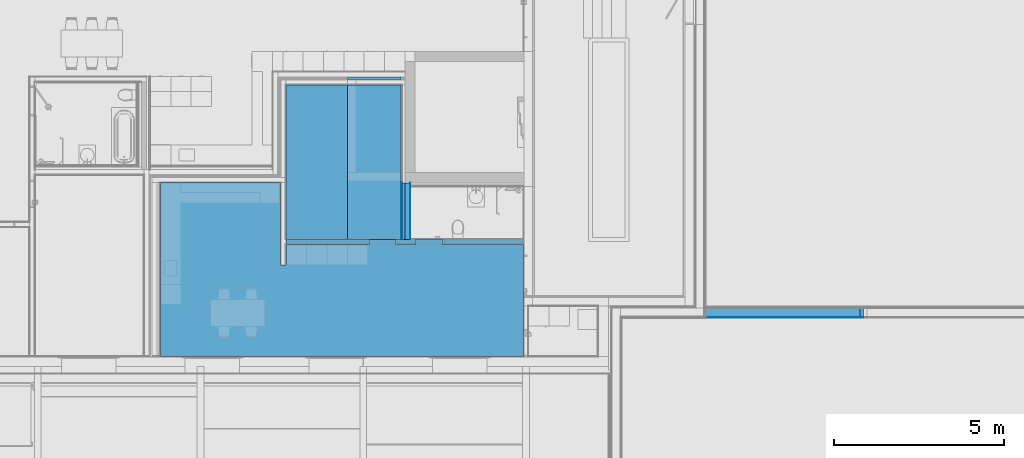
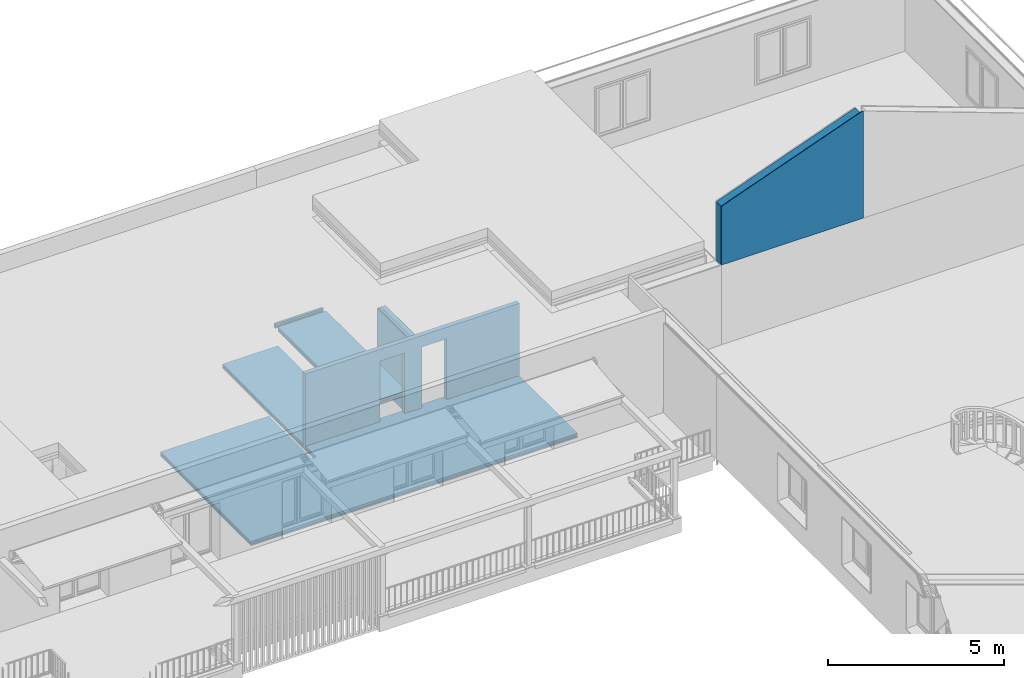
# One storey, part 12 of 36: 17 building element parts, 2 openings, 6 elements without a shape of their own.
"""IFC4 building model written with IfcOpenShell, lengths in millimetres."""

from ifc_helpers import new_model, entity, si_unit, converted_unit, derived_unit, direction, frame, origin_with_axes, place, context, subcontext, project, spatial, polygons, material, type_object, element, aggregate, save


model = new_model("IFC4")

# Units and contexts
model_context = context("Model", 3, precision=0.01, world=origin_with_axes(), true_north=direction((0.0, 1.0)))
body_context = subcontext(model_context, "Body", "Model", "MODEL_VIEW")
ifc_project = project(units=[si_unit("LENGTHUNIT", "METRE", prefix="MILLI"), si_unit("AREAUNIT", "SQUARE_METRE"), si_unit("VOLUMEUNIT", "CUBIC_METRE"), converted_unit("PLANEANGLEUNIT", "DEGREE", entity("IfcPlaneAngleMeasure", 0.0174532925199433), si_unit("PLANEANGLEUNIT", "RADIAN"), dimensions=[0, 0, 0, 0, 0, 0, 0]), converted_unit("TIMEUNIT", "Year", entity("IfcTimeMeasure", 31557600.0), si_unit("TIMEUNIT", "SECOND"), dimensions=[0, 0, 1, 0, 0, 0, 0]), si_unit("MASSUNIT", "GRAM", prefix="KILO"), si_unit("THERMODYNAMICTEMPERATUREUNIT", "DEGREE_CELSIUS"), si_unit("LUMINOUSINTENSITYUNIT", "LUMEN"), si_unit("ENERGYUNIT", "JOULE", prefix="MEGA"), derived_unit("THERMALCONDUCTANCEUNIT", [(si_unit("POWERUNIT", "WATT"), 1), (si_unit("LENGTHUNIT", "METRE"), -1), (si_unit("THERMODYNAMICTEMPERATUREUNIT", "KELVIN"), -1)]), derived_unit("SPECIFICHEATCAPACITYUNIT", [(si_unit("ENERGYUNIT", "JOULE"), 1), (si_unit("MASSUNIT", "GRAM", prefix="KILO"), -1), (si_unit("THERMODYNAMICTEMPERATUREUNIT", "KELVIN"), -1)]), derived_unit("MASSDENSITYUNIT", [(si_unit("MASSUNIT", "GRAM", prefix="KILO"), 1), (si_unit("VOLUMEUNIT", "CUBIC_METRE"), -1)])], contexts=[model_context])

# Site, building, storey
site_placement = place(None, origin_with_axes())
site = spatial("IfcSite", under=ifc_project, at=site_placement, Name="Gelände", CompositionType="ELEMENT")
building_placement = place(site_placement, origin_with_axes())
building = spatial("IfcBuilding", under=site, at=building_placement, Name="Gebäude", CompositionType="ELEMENT")
storey_placement = place(building_placement, frame((0.0, 0.0, 8700.0), z_axis=(0.0, 0.0, 1.0), x_axis=(1.0, 0.0, 0.0)))
storey = spatial("IfcBuildingStorey", under=building, at=storey_placement, Name="Attika", CompositionType="ELEMENT", Elevation=8700.0)

# Wall, building element parts
wall_type_1 = type_object("IfcWallType", Name="Aussenwand Typ 01 318", PredefinedType="NOTDEFINED")
wall_1_placement = place(storey_placement, frame((20776.99744477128, 27599.59728131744, 3400.0), z_axis=(0.0, 0.0, 1.0), x_axis=(1.0, 0.0, 0.0)))
wall_1 = element("IfcWall", 1, at=wall_1_placement, inside=storey, type_object=wall_type_1, Name="Wand-014", PredefinedType="NOTDEFINED")
ifc_material_1 = material(Name="Ständer Konstruktion gedämmt")
building_element_part_1_placement = place(wall_1_placement, origin_with_axes())
building_element_part_1 = element("IfcBuildingElementPart", 2, at=building_element_part_1_placement, material=ifc_material_1, Name="Ständer Konstruktion gedämmt", PredefinedType="NOTDEFINED", context=body_context, shape_type="Tessellation", body=[
    polygons([(0.0, 277.9999999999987, 2032.028896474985), (4551.99999979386, 278.0000000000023, 3688.821402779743), (4551.99999979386, 278.0000000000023, 2903.934870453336), (4651.999999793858, 278.0000000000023, 2903.934870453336), (4651.999999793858, 277.9999999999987, 0.0), (0.0, 277.9999999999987, 0.0), (4551.99999979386, 18.00000000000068, 3688.821402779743), (0.0, 18.00000000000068, 2032.028896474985), (4551.99999979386, 18.00000000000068, 2903.934870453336), (4651.999999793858, 18.00000000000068, 2903.934870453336), (4651.999999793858, 18.00000000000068, 0.0), (0.0, 18.00000000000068, 0.0)], [[[1, 2, 3, 4, 5, 6]], [[7, 2, 1, 8]], [[2, 7, 9, 3]], [[4, 3, 9, 10]], [[10, 11, 5, 4]], [[5, 11, 12, 6]], [[8, 1, 6, 12]], [[7, 8, 12, 11, 10, 9]]], closed=True),
])
ifc_material_2 = material(Name="Grobspanplatte-OSB")
building_element_part_2_placement = place(wall_1_placement, origin_with_axes())
building_element_part_2 = element("IfcBuildingElementPart", 3, at=building_element_part_2_placement, material=ifc_material_2, Name="Grobspanplatte-OSB", PredefinedType="NOTDEFINED", context=body_context, shape_type="Tessellation", body=[
    polygons([(0.0, 18.00000000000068, 2032.028896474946), (4593.523864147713, 18.00000000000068, 3703.93485341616), (4651.999999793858, 18.00000000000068, 3703.93485341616), (4651.999999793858, 18.00000000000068, 0.0), (0.0, 18.00000000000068, 0.0), (4593.523864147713, 0.0, 3703.93485341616), (0.0, 0.0, 2032.028896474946), (4651.999999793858, 0.0, 3703.93485341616), (4651.999999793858, 0.0, 0.0), (0.0, 0.0, 0.0)], [[[1, 2, 3, 4, 5]], [[6, 2, 1, 7]], [[2, 6, 8, 3]], [[3, 8, 9, 4]], [[9, 10, 5, 4]], [[7, 1, 5, 10]], [[6, 7, 10, 9, 8]]], closed=True),
])
aggregate(wall_1, [building_element_part_1, building_element_part_2])

wall_type_2 = type_object("IfcWallType", Name="Vorsatzschale 01 115", PredefinedType="NOTDEFINED")
wall_2_placement = place(storey_placement, frame((11813.99744477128, 31572.59728131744, 0.0), z_axis=(0.0, 0.0, 1.0), x_axis=(0.0, -1.0, 0.0)))
wall_2 = element("IfcWall", 4, at=wall_2_placement, inside=storey, type_object=wall_type_2, Name="Wand-014", PredefinedType="NOTDEFINED")
building_element_part_3_placement = place(wall_2_placement, origin_with_axes())
building_element_part_3 = element("IfcBuildingElementPart", 5, at=building_element_part_3_placement, material=ifc_material_1, Name="Ständer Konstruktion gedämmt", PredefinedType="NOTDEFINED", context=body_context, shape_type="Tessellation", body=[
    polygons([(1664.999999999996, 35.00000000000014, 0.0), (0.0, 35.00000000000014, 0.0), (0.0, 115.0000000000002, 0.0), (1664.999999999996, 115.0000000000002, 0.0), (1664.999999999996, 35.00000000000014, 2649.999948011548), (0.0, 35.00000000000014, 2649.999948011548), (0.0, 115.0000000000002, 2649.999948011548), (1664.999999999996, 115.0000000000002, 2649.999948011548)], [[[1, 2, 3, 4]], [[5, 6, 2, 1]], [[3, 2, 6, 7]], [[4, 3, 7, 8]], [[4, 8, 5, 1]], [[8, 7, 6, 5]]], closed=True),
])
ifc_material_3 = material(Name="Gipskartonplatte GKP")
building_element_part_4_placement = place(wall_2_placement, origin_with_axes())
building_element_part_4 = element("IfcBuildingElementPart", 6, at=building_element_part_4_placement, material=ifc_material_3, Name="Gipskartonplatte GKP", PredefinedType="NOTDEFINED", context=body_context, shape_type="Tessellation", body=[
    polygons([(1664.999999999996, 22.49999999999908, 0.0), (0.0, 22.50000000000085, 0.0), (0.0, 35.00000000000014, 0.0), (1664.999999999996, 35.00000000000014, 0.0), (1664.999999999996, 22.49999999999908, 2649.999948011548), (0.0, 22.50000000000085, 2649.999948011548), (0.0, 35.00000000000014, 2649.999948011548), (1664.999999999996, 35.00000000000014, 2649.999948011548)], [[[1, 2, 3, 4]], [[5, 6, 2, 1]], [[3, 2, 6, 7]], [[4, 3, 7, 8]], [[4, 8, 5, 1]], [[8, 7, 6, 5]]], closed=True),
])
ifc_material_4 = material(Name="Kalkzementputz Aussen")
building_element_part_5_placement = place(wall_2_placement, origin_with_axes())
building_element_part_5 = element("IfcBuildingElementPart", 7, at=building_element_part_5_placement, material=ifc_material_4, Name="Kalkzementputz Aussen", PredefinedType="NOTDEFINED", context=body_context, shape_type="Tessellation", body=[
    polygons([(1654.999999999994, 9.999999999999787, 0.0), (1654.999999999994, 0.0, 0.0), (0.0, 0.0, 0.0), (0.0, 9.999999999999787, 0.0), (1654.999999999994, 9.999999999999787, 2649.999948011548), (1654.999999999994, 0.0, 2649.999948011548), (0.0, 0.0, 2649.999948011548), (0.0, 9.999999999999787, 2649.999948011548)], [[[1, 2, 3, 4]], [[2, 1, 5, 6]], [[2, 6, 7, 3]], [[8, 4, 3, 7]], [[5, 1, 4, 8]], [[6, 5, 8, 7]]], closed=True),
])
building_element_part_6_placement = place(wall_2_placement, origin_with_axes())
building_element_part_6 = element("IfcBuildingElementPart", 8, at=building_element_part_6_placement, material=ifc_material_3, Name="Gipskartonplatte GKP", PredefinedType="NOTDEFINED", context=body_context, shape_type="Tessellation", body=[
    polygons([(1664.999999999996, 9.999999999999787, 0.0), (0.0, 9.999999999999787, 0.0), (0.0, 22.50000000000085, 0.0), (1664.999999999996, 22.49999999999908, 0.0), (1664.999999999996, 9.999999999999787, 2649.999948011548), (0.0, 9.999999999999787, 2649.999948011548), (0.0, 22.50000000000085, 2649.999948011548), (1664.999999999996, 22.49999999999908, 2649.999948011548)], [[[1, 2, 3, 4]], [[5, 6, 2, 1]], [[3, 2, 6, 7]], [[4, 3, 7, 8]], [[4, 8, 5, 1]], [[8, 7, 6, 5]]], closed=True),
])
aggregate(wall_2, [building_element_part_3, building_element_part_4, building_element_part_5, building_element_part_6])

# Covering, building element parts
covering_type = type_object("IfcCoveringType", Name="Bodenaufbau Typ 01 150", PredefinedType="NOTDEFINED")
covering_1_placement = place(storey_placement, frame((10228.99744477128, 34457.59728131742, 0.0), z_axis=(0.0, 0.0, 1.0), x_axis=(1.0, 0.0, 0.0)))
covering_1 = element("IfcCovering", 9, at=covering_1_placement, inside=storey, type_object=covering_type, Name="Decke-007", PredefinedType="NOTDEFINED")
ifc_material_5 = material(Name="Bodenbelag")
building_element_part_7_placement = place(covering_1_placement, origin_with_axes())
building_element_part_7 = element("IfcBuildingElementPart", 10, at=building_element_part_7_placement, material=ifc_material_5, Name="Bodenbelag", PredefinedType="NOTDEFINED", context=body_context, shape_type="Tessellation", body=[
    polygons([(-5498.00162627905, -2874.99999999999, 134.9999999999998), (-5498.00162627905, -2874.99999999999, 150.0000000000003), (-1959.999999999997, -2874.99999999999, 150.0000000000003), (-1959.999999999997, -2874.99999999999, 134.9999999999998), (-5498.001626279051, -8000.000540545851, 150.0000000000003), (-5498.001626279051, -8000.000540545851, 134.9999999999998), (5190.000000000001, -8000.000540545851, 150.0000000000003), (5190.000000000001, -4699.999999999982, 150.0000000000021), (2810.000000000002, -4699.999999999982, 150.0000000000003), (2810.000000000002, -4539.999999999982, 150.0000000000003), (2010.000000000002, -4539.999999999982, 150.0000000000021), (2010.000000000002, -4699.999999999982, 150.0000000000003), (1435.000000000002, -4699.999999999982, 150.0000000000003), (1435.000000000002, -4549.999999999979, 150.0000000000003), (635.0000000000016, -4549.999999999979, 150.0000000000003), (635.0000000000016, -4699.999999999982, 150.0000000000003), (-1809.999999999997, -4699.999999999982, 150.0000000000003), (-1809.999999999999, -5307.999999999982, 150.0000000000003), (-1959.999999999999, -5307.999999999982, 150.0000000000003), (-1959.999999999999, -5307.999999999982, 134.9999999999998), (-1809.999999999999, -5307.999999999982, 134.9999999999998), (-1809.999999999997, -4699.999999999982, 134.9999999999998), (635.0000000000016, -4699.999999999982, 134.9999999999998), (635.0000000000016, -4549.999999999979, 134.9999999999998), (1435.000000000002, -4549.999999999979, 134.9999999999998), (1435.000000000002, -4699.999999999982, 134.9999999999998), (2010.000000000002, -4699.999999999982, 134.9999999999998), (2010.000000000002, -4539.999999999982, 134.9999999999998), (2810.000000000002, -4539.999999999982, 134.9999999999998), (2810.000000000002, -4699.999999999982, 134.9999999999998), (5190.000000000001, -4699.999999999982, 134.9999999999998), (5190.000000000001, -8000.000540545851, 134.9999999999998)], [[[1, 2, 3, 4]], [[5, 2, 1, 6]], [[2, 5, 7, 8, 9, 10, 11, 12, 13, 14, 15, 16, 17, 18, 19, 3]], [[4, 3, 19, 20]], [[6, 1, 4, 20, 21, 22, 23, 24, 25, 26, 27, 28, 29, 30, 31, 32]], [[5, 6, 32, 7]], [[31, 8, 7, 32]], [[9, 8, 31, 30]], [[9, 30, 29, 10]], [[28, 11, 10, 29]], [[28, 27, 12, 11]], [[13, 12, 27, 26]], [[25, 14, 13, 26]], [[24, 15, 14, 25]], [[16, 15, 24, 23]], [[22, 17, 16, 23]], [[18, 17, 22, 21]], [[19, 18, 21, 20]]], closed=True),
    polygons([(-1809.999999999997, -2874.99999999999, 134.9999999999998), (-1809.999999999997, -2874.99999999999, 150.0000000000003), (-1809.999999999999, 0.0, 150.0000000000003), (-1809.999999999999, 0.0, 134.9999999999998), (-1809.999999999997, -4549.999999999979, 150.0000000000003), (-1809.999999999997, -4549.999999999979, 134.9999999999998), (0.0, -4549.999999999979, 150.0000000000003), (0.0, 0.0, 150.0000000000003), (0.0, 0.0, 134.9999999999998), (0.0, -4549.999999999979, 134.9999999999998)], [[[1, 2, 3, 4]], [[5, 2, 1, 6]], [[2, 5, 7, 8, 3]], [[9, 4, 3, 8]], [[6, 1, 4, 9, 10]], [[5, 6, 10, 7]], [[7, 10, 9, 8]]], closed=True),
])
ifc_material_6 = material(Name="Unterlagsboden")
building_element_part_8_placement = place(covering_1_placement, origin_with_axes())
building_element_part_8 = element("IfcBuildingElementPart", 11, at=building_element_part_8_placement, material=ifc_material_6, Name="Unterlagsboden", PredefinedType="NOTDEFINED", context=body_context, shape_type="Tessellation", body=[
    polygons([(-5498.00162627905, -2874.99999999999, 80.00000000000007), (-5498.00162627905, -2874.99999999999, 134.9999999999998), (-1959.999999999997, -2874.99999999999, 134.9999999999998), (-1959.999999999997, -2874.99999999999, 80.00000000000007), (-5498.001626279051, -8000.000540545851, 134.9999999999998), (-5498.001626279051, -8000.000540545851, 80.00000000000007), (5190.000000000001, -8000.000540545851, 134.9999999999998), (5190.000000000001, -4699.999999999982, 134.9999999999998), (2810.000000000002, -4699.999999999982, 134.9999999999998), (2810.000000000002, -4539.999999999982, 134.9999999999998), (2010.000000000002, -4539.999999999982, 134.9999999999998), (2010.000000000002, -4699.999999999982, 134.9999999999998), (1435.000000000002, -4699.999999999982, 134.9999999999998), (1435.000000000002, -4549.999999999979, 134.9999999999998), (635.0000000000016, -4549.999999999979, 134.9999999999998), (635.0000000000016, -4699.999999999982, 134.9999999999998), (-1809.999999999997, -4699.999999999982, 134.9999999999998), (-1809.999999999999, -5307.999999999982, 134.9999999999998), (-1959.999999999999, -5307.999999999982, 134.9999999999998), (-1959.999999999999, -5307.999999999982, 80.00000000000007), (-1809.999999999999, -5307.999999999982, 80.00000000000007), (-1809.999999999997, -4699.999999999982, 80.00000000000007), (635.0000000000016, -4699.999999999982, 80.00000000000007), (635.0000000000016, -4549.999999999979, 80.00000000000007), (1435.000000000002, -4549.999999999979, 80.00000000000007), (1435.000000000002, -4699.999999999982, 80.00000000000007), (2010.000000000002, -4699.999999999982, 80.00000000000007), (2010.000000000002, -4539.999999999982, 80.00000000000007), (2810.000000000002, -4539.999999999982, 80.00000000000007), (2810.000000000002, -4699.999999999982, 80.00000000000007), (5190.000000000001, -4699.999999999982, 80.00000000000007), (5190.000000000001, -8000.000540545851, 80.00000000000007)], [[[1, 2, 3, 4]], [[5, 2, 1, 6]], [[2, 5, 7, 8, 9, 10, 11, 12, 13, 14, 15, 16, 17, 18, 19, 3]], [[4, 3, 19, 20]], [[6, 1, 4, 20, 21, 22, 23, 24, 25, 26, 27, 28, 29, 30, 31, 32]], [[5, 6, 32, 7]], [[31, 8, 7, 32]], [[9, 8, 31, 30]], [[9, 30, 29, 10]], [[28, 11, 10, 29]], [[28, 27, 12, 11]], [[13, 12, 27, 26]], [[25, 14, 13, 26]], [[24, 15, 14, 25]], [[16, 15, 24, 23]], [[22, 17, 16, 23]], [[18, 17, 22, 21]], [[19, 18, 21, 20]]], closed=True),
    polygons([(-1809.999999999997, -2874.99999999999, 80.00000000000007), (-1809.999999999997, -2874.99999999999, 134.9999999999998), (-1809.999999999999, 0.0, 134.9999999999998), (-1809.999999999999, 0.0, 80.00000000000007), (-1809.999999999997, -4549.999999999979, 134.9999999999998), (-1809.999999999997, -4549.999999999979, 80.00000000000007), (0.0, -4549.999999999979, 134.9999999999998), (0.0, 0.0, 134.9999999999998), (0.0, 0.0, 80.00000000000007), (0.0, -4549.999999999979, 80.00000000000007)], [[[1, 2, 3, 4]], [[5, 2, 1, 6]], [[2, 5, 7, 8, 3]], [[9, 4, 3, 8]], [[6, 1, 4, 9, 10]], [[5, 6, 10, 7]], [[7, 10, 9, 8]]], closed=True),
])
ifc_material_7 = material(Name="Trittschalldämmung")
building_element_part_9_placement = place(covering_1_placement, origin_with_axes())
building_element_part_9 = element("IfcBuildingElementPart", 12, at=building_element_part_9_placement, material=ifc_material_7, Name="Trittschalldämmung", PredefinedType="NOTDEFINED", context=body_context, shape_type="Tessellation", body=[
    polygons([(-5498.00162627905, -2874.99999999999, 50.00000000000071), (-5498.00162627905, -2874.99999999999, 80.00000000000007), (-1959.999999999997, -2874.99999999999, 80.00000000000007), (-1959.999999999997, -2874.99999999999, 50.00000000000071), (-5498.001626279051, -8000.000540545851, 80.00000000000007), (-5498.001626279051, -8000.000540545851, 50.00000000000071), (5190.000000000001, -8000.000540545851, 80.00000000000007), (5190.000000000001, -4699.999999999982, 80.00000000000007), (2810.000000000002, -4699.999999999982, 80.00000000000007), (2810.000000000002, -4539.999999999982, 80.00000000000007), (2010.000000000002, -4539.999999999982, 80.00000000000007), (2010.000000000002, -4699.999999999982, 80.00000000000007), (1435.000000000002, -4699.999999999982, 80.00000000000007), (1435.000000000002, -4549.999999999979, 80.00000000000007), (635.0000000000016, -4549.999999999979, 80.00000000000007), (635.0000000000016, -4699.999999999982, 80.00000000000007), (-1809.999999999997, -4699.999999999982, 80.00000000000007), (-1809.999999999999, -5307.999999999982, 80.00000000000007), (-1959.999999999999, -5307.999999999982, 80.00000000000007), (-1959.999999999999, -5307.999999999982, 50.00000000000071), (-1809.999999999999, -5307.999999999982, 50.00000000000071), (-1809.999999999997, -4699.999999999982, 50.00000000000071), (635.0000000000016, -4699.999999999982, 50.00000000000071), (635.0000000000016, -4549.999999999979, 50.00000000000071), (1435.000000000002, -4549.999999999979, 50.00000000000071), (1435.000000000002, -4699.999999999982, 50.00000000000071), (2010.000000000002, -4699.999999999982, 50.00000000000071), (2010.000000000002, -4539.999999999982, 50.00000000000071), (2810.000000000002, -4539.999999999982, 50.00000000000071), (2810.000000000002, -4699.999999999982, 50.00000000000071), (5190.000000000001, -4699.999999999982, 50.00000000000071), (5190.000000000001, -8000.000540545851, 50.00000000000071)], [[[1, 2, 3, 4]], [[5, 2, 1, 6]], [[2, 5, 7, 8, 9, 10, 11, 12, 13, 14, 15, 16, 17, 18, 19, 3]], [[4, 3, 19, 20]], [[6, 1, 4, 20, 21, 22, 23, 24, 25, 26, 27, 28, 29, 30, 31, 32]], [[5, 6, 32, 7]], [[31, 8, 7, 32]], [[9, 8, 31, 30]], [[9, 30, 29, 10]], [[28, 11, 10, 29]], [[28, 27, 12, 11]], [[13, 12, 27, 26]], [[25, 14, 13, 26]], [[24, 15, 14, 25]], [[16, 15, 24, 23]], [[22, 17, 16, 23]], [[18, 17, 22, 21]], [[19, 18, 21, 20]]], closed=True),
    polygons([(-1809.999999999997, -2874.99999999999, 50.00000000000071), (-1809.999999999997, -2874.99999999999, 80.00000000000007), (-1809.999999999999, 0.0, 80.00000000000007), (-1809.999999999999, 0.0, 50.00000000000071), (-1809.999999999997, -4549.999999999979, 80.00000000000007), (-1809.999999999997, -4549.999999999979, 50.00000000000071), (0.0, -4549.999999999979, 80.00000000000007), (0.0, 0.0, 80.00000000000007), (0.0, 0.0, 50.00000000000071), (0.0, -4549.999999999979, 50.00000000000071)], [[[1, 2, 3, 4]], [[5, 2, 1, 6]], [[2, 5, 7, 8, 3]], [[9, 4, 3, 8]], [[6, 1, 4, 9, 10]], [[5, 6, 10, 7]], [[7, 10, 9, 8]]], closed=True),
])
ifc_material_8 = material(Name="Dämmung Innen")
building_element_part_10_placement = place(covering_1_placement, origin_with_axes())
building_element_part_10 = element("IfcBuildingElementPart", 13, at=building_element_part_10_placement, material=ifc_material_8, Name="Dämmung Innen", PredefinedType="NOTDEFINED", context=body_context, shape_type="Tessellation", body=[
    polygons([(-5498.00162627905, -2874.99999999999, 0.0), (-5498.00162627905, -2874.99999999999, 50.00000000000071), (-1959.999999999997, -2874.99999999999, 50.00000000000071), (-1959.999999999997, -2874.99999999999, 0.0), (-5498.001626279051, -8000.000540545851, 50.00000000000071), (-5498.001626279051, -8000.000540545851, 0.0), (5190.000000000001, -8000.000540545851, 50.00000000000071), (5190.000000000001, -4699.999999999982, 50.00000000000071), (2810.000000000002, -4699.999999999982, 50.00000000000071), (2810.000000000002, -4539.999999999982, 50.00000000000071), (2010.000000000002, -4539.999999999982, 50.00000000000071), (2010.000000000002, -4699.999999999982, 50.00000000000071), (1435.000000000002, -4699.999999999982, 50.00000000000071), (1435.000000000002, -4549.999999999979, 50.00000000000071), (635.0000000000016, -4549.999999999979, 50.00000000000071), (635.0000000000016, -4699.999999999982, 50.00000000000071), (-1809.999999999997, -4699.999999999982, 50.00000000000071), (-1809.999999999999, -5307.999999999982, 50.00000000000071), (-1959.999999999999, -5307.999999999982, 50.00000000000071), (-1959.999999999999, -5307.999999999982, 0.0), (-1809.999999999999, -5307.999999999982, 0.0), (-1809.999999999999, -4699.999999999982, 0.0), (635.0000000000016, -4699.999999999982, 0.0), (635.0000000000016, -4549.999999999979, 0.0), (1435.000000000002, -4549.999999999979, 0.0), (1435.000000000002, -4699.999999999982, 0.0), (2010.000000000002, -4699.999999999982, 0.0), (2010.000000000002, -4539.999999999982, 0.0), (2810.000000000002, -4539.999999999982, 0.0), (2810.000000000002, -4699.999999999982, 0.0), (5190.000000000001, -4699.999999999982, 0.0), (5190.000000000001, -8000.000540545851, 0.0)], [[[1, 2, 3, 4]], [[5, 2, 1, 6]], [[2, 5, 7, 8, 9, 10, 11, 12, 13, 14, 15, 16, 17, 18, 19, 3]], [[4, 3, 19, 20]], [[6, 1, 4, 20, 21, 22, 23, 24, 25, 26, 27, 28, 29, 30, 31, 32]], [[5, 6, 32, 7]], [[31, 8, 7, 32]], [[9, 8, 31, 30]], [[9, 30, 29, 10]], [[28, 11, 10, 29]], [[28, 27, 12, 11]], [[13, 12, 27, 26]], [[25, 14, 13, 26]], [[24, 15, 14, 25]], [[16, 15, 24, 23]], [[22, 17, 16, 23]], [[18, 17, 22, 21]], [[19, 18, 21, 20]]], closed=True),
    polygons([(-1809.999999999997, -2874.99999999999, 0.0), (-1809.999999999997, -2874.99999999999, 50.00000000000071), (-1809.999999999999, 0.0, 50.00000000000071), (-1809.999999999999, 0.0, 0.0), (-1809.999999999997, -4549.999999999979, 50.00000000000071), (-1809.999999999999, -4549.999999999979, 0.0), (0.0, -4549.999999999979, 50.00000000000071), (0.0, 0.0, 50.00000000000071), (0.0, 0.0, 0.0), (0.0, -4549.999999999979, 0.0)], [[[1, 2, 3, 4]], [[5, 2, 1, 6]], [[2, 5, 7, 8, 3]], [[8, 9, 4, 3]], [[6, 1, 4, 9, 10]], [[5, 6, 10, 7]], [[7, 10, 9, 8]]], closed=True),
])
aggregate(covering_1, [building_element_part_7, building_element_part_8, building_element_part_9, building_element_part_10])

covering_2_placement = place(storey_placement, frame((10228.99744477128, 34847.59728131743, 649.9999999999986), z_axis=(0.0, 0.0, 1.0), x_axis=(1.0, 0.0, 0.0)))
covering_2 = element("IfcCovering", 14, at=covering_2_placement, inside=storey, type_object=covering_type, Name="Decke-007", PredefinedType="NOTDEFINED")
building_element_part_11_placement = place(covering_2_placement, origin_with_axes())
building_element_part_11 = element("IfcBuildingElementPart", 15, at=building_element_part_11_placement, material=ifc_material_5, Name="Bodenbelag", PredefinedType="NOTDEFINED", context=body_context, shape_type="Tessellation", body=[
    polygons([(1584.999968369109, -390.0000007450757, 134.9999999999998), (1584.999968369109, -390.0000007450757, 150.0000000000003), (1584.999968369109, -4939.999999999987, 150.0000000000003), (1584.999968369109, -4939.999999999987, 134.9999999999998), (0.0, -390.0000007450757, 150.0000000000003), (0.0, -390.0000007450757, 134.9999999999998), (0.0, -4939.999999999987, 150.0000000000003), (0.0, -4939.999999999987, 134.9999999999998)], [[[1, 2, 3, 4]], [[5, 2, 1, 6]], [[2, 5, 7, 3]], [[4, 3, 7, 8]], [[6, 1, 4, 8]], [[5, 6, 8, 7]]], closed=True),
    polygons([(0.0, -240.0000022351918, 150.0000000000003), (1584.999968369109, -240.0000022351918, 150.0000000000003), (1584.999968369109, -159.9999984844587, 150.0000000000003), (0.0, -159.999999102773, 150.0000000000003), (1584.999968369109, -240.0000022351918, 134.9999999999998), (0.0, -240.0000022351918, 134.9999999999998), (1584.999968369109, -159.9999984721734, 134.9999999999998), (0.0, -159.999999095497, 134.9999999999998)], [[[1, 2, 3, 4]], [[5, 2, 1, 6]], [[2, 5, 7, 3]], [[4, 3, 7, 8]], [[6, 1, 4, 8]], [[5, 6, 8, 7]]], closed=True),
])
building_element_part_12_placement = place(covering_2_placement, origin_with_axes())
building_element_part_12 = element("IfcBuildingElementPart", 16, at=building_element_part_12_placement, material=ifc_material_7, Name="Trittschalldämmung", PredefinedType="NOTDEFINED", context=body_context, shape_type="Tessellation", body=[
    polygons([(1584.999968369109, -390.0000007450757, 50.00000000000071), (1584.999968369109, -390.0000007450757, 80.00000000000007), (1584.999968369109, -4939.999999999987, 80.00000000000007), (1584.999968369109, -4939.999999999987, 50.00000000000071), (0.0, -390.0000007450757, 80.00000000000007), (0.0, -390.0000007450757, 50.00000000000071), (0.0, -4939.999999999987, 80.00000000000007), (0.0, -4939.999999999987, 50.00000000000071)], [[[1, 2, 3, 4]], [[5, 2, 1, 6]], [[2, 5, 7, 3]], [[4, 3, 7, 8]], [[6, 1, 4, 8]], [[5, 6, 8, 7]]], closed=True),
    polygons([(0.0, -240.0000022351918, 80.00000000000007), (1584.999968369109, -240.0000022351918, 80.00000000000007), (1584.999968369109, -159.9999984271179, 80.00000000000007), (0.0, -159.9999990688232, 80.00000000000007), (1584.999968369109, -240.0000022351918, 50.00000000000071), (0.0, -240.0000022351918, 50.00000000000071), (1584.999968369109, -159.9999984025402, 50.00000000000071), (0.0, -159.9999990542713, 50.00000000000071)], [[[1, 2, 3, 4]], [[5, 2, 1, 6]], [[2, 5, 7, 3]], [[4, 3, 7, 8]], [[6, 1, 4, 8]], [[5, 6, 8, 7]]], closed=True),
])
building_element_part_13_placement = place(covering_2_placement, origin_with_axes())
building_element_part_13 = element("IfcBuildingElementPart", 17, at=building_element_part_13_placement, material=ifc_material_8, Name="Dämmung Innen", PredefinedType="NOTDEFINED", context=body_context, shape_type="Tessellation", body=[
    polygons([(1584.999968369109, -390.0000007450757, 0.0), (1584.999968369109, -390.0000007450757, 50.00000000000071), (1584.999968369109, -4939.999999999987, 50.00000000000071), (1584.999968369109, -4939.999999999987, 0.0), (0.0, -390.0000007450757, 50.00000000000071), (0.0, -390.0000007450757, 0.0), (0.0, -4939.999999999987, 50.00000000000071), (0.0, -4939.999999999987, 0.0)], [[[1, 2, 3, 4]], [[5, 2, 1, 6]], [[2, 5, 7, 3]], [[4, 3, 7, 8]], [[6, 1, 4, 8]], [[5, 6, 8, 7]]], closed=True),
    polygons([(0.0, -240.0000022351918, 50.00000000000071), (1584.999968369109, -240.0000022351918, 50.00000000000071), (1584.999968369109, -159.9999984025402, 50.00000000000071), (0.0, -159.9999990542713, 50.00000000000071), (1584.999968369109, -240.0000022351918, 0.0), (0.0, -240.0000022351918, 0.0), (1584.999968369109, -159.9999983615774, 0.0), (0.0, -159.9999990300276, 0.0)], [[[1, 2, 3, 4]], [[5, 2, 1, 6]], [[2, 5, 7, 3]], [[4, 3, 7, 8]], [[6, 1, 4, 8]], [[5, 6, 8, 7]]], closed=True),
])

# Wall, openings, building element part
wall_type_3 = type_object("IfcWallType", Name="Innenwand Typ 05 170", PredefinedType="NOTDEFINED")
wall_3_placement = place(storey_placement, frame((15418.99744477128, 29917.59728131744, 0.0), z_axis=(0.0, 0.0, 1.0), x_axis=(-1.0, 0.0, 0.0)))
wall_3 = element("IfcWall", 18, at=wall_3_placement, inside=storey, type_object=wall_type_3, Name="Wand-014", PredefinedType="NOTDEFINED")
opening_1_placement = place(wall_3_placement, frame((4154.999999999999, 0.0, 150.0000000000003), z_axis=(0.0, 0.0, 1.0), x_axis=(1.0, 0.0, 0.0)))
element("IfcOpeningElement", 19, at=opening_1_placement, cuts=wall_3, Name="Tür-011", context=body_context, identifier="Reference", shape_type="Tessellation", body=[
    polygons([(400.0000000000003, 171.0000000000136, 2100.0), (400.0000000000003, 171.00000000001, -150.0000000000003), (-400.0000000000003, 171.0000000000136, -150.0000000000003), (-400.0000000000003, 171.0000000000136, 2100.0), (400.0000000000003, -1.00000000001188, 2100.0), (400.0000000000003, -1.000000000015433, -150.0000000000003), (-400.0000000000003, -1.00000000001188, -150.0000000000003), (-400.0000000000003, -1.00000000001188, 2100.0)], [[[1, 2, 3, 4]], [[5, 6, 2, 1]], [[6, 7, 3, 2]], [[7, 8, 4, 3]], [[8, 5, 1, 4]], [[7, 6, 5, 8]]], closed=True),
])
opening_2_placement = place(wall_3_placement, frame((2780.0, 0.0, 150.0000000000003), z_axis=(0.0, 0.0, 1.0), x_axis=(1.0, 0.0, 0.0)))
element("IfcOpeningElement", 20, at=opening_2_placement, cuts=wall_3, Name="Tür-011", context=body_context, identifier="Reference", shape_type="Tessellation", body=[
    polygons([(400.0000000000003, 171.0000000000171, 2100.0), (400.0000000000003, 171.0000000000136, -150.0000000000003), (-400.0000000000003, 171.0000000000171, -150.0000000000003), (-400.0000000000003, 171.0000000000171, 2100.0), (400.0000000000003, -1.000000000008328, 2100.0), (400.0000000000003, -1.00000000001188, -150.0000000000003), (-400.0000000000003, -1.000000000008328, -150.0000000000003), (-400.0000000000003, -1.000000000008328, 2100.0)], [[[1, 2, 3, 4]], [[5, 6, 2, 1]], [[6, 7, 3, 2]], [[7, 8, 4, 3]], [[8, 5, 1, 4]], [[7, 6, 5, 8]]], closed=True),
])
ifc_material_9 = material(Name="MW, Backstein")
building_element_part_14_placement = place(wall_3_placement, origin_with_axes())
building_element_part_14 = element("IfcBuildingElementPart", 21, at=building_element_part_14_placement, material=ifc_material_9, Name="MW, Backstein", PredefinedType="NOTDEFINED", context=body_context, shape_type="Tessellation", body=[
    polygons([(3180.0, 10.00000000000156, 2250.0), (3180.0, 9.99999999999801, 150.0000000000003), (3180.0, 10.00000000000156, 0.0), (3754.999999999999, 10.00000000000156, 0.0), (3754.999999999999, 10.00000000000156, 150.0000000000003), (3754.999999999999, 10.00000000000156, 2250.0), (4555.0, 10.00000000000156, 2250.0), (4555.0, 10.00000000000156, 150.0000000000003), (4555.0, 10.00000000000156, 0.0), (7000.0, 9.99999999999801, 0.0), (7000.0, 9.99999999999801, 2649.999948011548), (0.0, 10.00000000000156, 2649.999948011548), (0.0, 10.00000000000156, 0.0), (2379.999999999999, 10.00000000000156, 0.0), (2379.999999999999, 9.99999999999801, 150.0000000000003), (2379.999999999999, 10.00000000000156, 2250.0), (3180.0, 160.0000000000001, 2250.0), (3180.0, 160.0000000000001, 150.0000000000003), (3180.0, 160.0000000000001, 0.0), (3754.999999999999, 160.0000000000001, 0.0), (3754.999999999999, 160.0000000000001, 150.0000000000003), (3754.999999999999, 160.0000000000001, 2250.0), (4555.0, 160.0000000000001, 2250.0), (4555.0, 160.0000000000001, 150.0000000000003), (4555.0, 160.0000000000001, 0.0), (7000.0, 160.0000000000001, 0.0), (7000.0, 160.0000000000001, 2649.999948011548), (0.0, 160.0000000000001, 2649.999948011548), (0.0, 160.0000000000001, 0.0), (2379.999999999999, 160.0000000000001, 0.0), (2379.999999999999, 160.0000000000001, 150.0000000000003), (2379.999999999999, 160.0000000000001, 2250.0)], [[[1, 2, 3, 4, 5, 6, 7, 8, 9, 10, 11, 12, 13, 14, 15, 16]], [[2, 1, 17, 18]], [[2, 18, 19, 3]], [[3, 19, 20, 4]], [[5, 4, 20, 21]], [[5, 21, 22, 6]], [[6, 22, 23, 7]], [[7, 23, 24, 8]], [[24, 25, 9, 8]], [[26, 10, 9, 25]], [[27, 11, 10, 26]], [[28, 12, 11, 27]], [[13, 12, 28, 29]], [[13, 29, 30, 14]], [[31, 15, 14, 30]], [[16, 15, 31, 32]], [[1, 16, 32, 17]], [[32, 31, 30, 29, 28, 27, 26, 25, 24, 23, 22, 21, 20, 19, 18, 17]]], closed=True),
])
aggregate(wall_3, [building_element_part_14])

# Building element part
building_element_part_15_placement = place(covering_2_placement, origin_with_axes())
building_element_part_15 = element("IfcBuildingElementPart", 22, at=building_element_part_15_placement, material=ifc_material_6, Name="Unterlagsboden", PredefinedType="NOTDEFINED", context=body_context, shape_type="Tessellation", body=[
    polygons([(1584.999968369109, -390.0000007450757, 80.00000000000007), (1584.999968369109, -390.0000007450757, 134.9999999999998), (1584.999968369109, -4939.999999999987, 134.9999999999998), (1584.999968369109, -4939.999999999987, 80.00000000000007), (0.0, -390.0000007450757, 134.9999999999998), (0.0, -390.0000007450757, 80.00000000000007), (0.0, -4939.999999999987, 134.9999999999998), (0.0, -4939.999999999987, 80.00000000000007)], [[[1, 2, 3, 4]], [[5, 2, 1, 6]], [[2, 5, 7, 3]], [[4, 3, 7, 8]], [[6, 1, 4, 8]], [[5, 6, 8, 7]]], closed=True),
    polygons([(0.0, -240.0000022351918, 134.9999999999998), (1584.999968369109, -240.0000022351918, 134.9999999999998), (1584.999968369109, -159.9999984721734, 134.9999999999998), (0.0, -159.999999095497, 134.9999999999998), (1584.999968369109, -240.0000022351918, 80.00000000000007), (0.0, -240.0000022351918, 80.00000000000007), (1584.999968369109, -159.9999984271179, 80.00000000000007), (0.0, -159.9999990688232, 80.00000000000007)], [[[1, 2, 3, 4]], [[5, 2, 1, 6]], [[2, 5, 7, 3]], [[4, 3, 7, 8]], [[6, 1, 4, 8]], [[5, 6, 8, 7]]], closed=True),
])

aggregate(covering_2, [building_element_part_11, building_element_part_12, building_element_part_13, building_element_part_15])

# Wall, building element parts
wall_type_4 = type_object("IfcWallType", Name="Innenwand Typ 03 160", PredefinedType="NOTDEFINED")
wall_4_placement = place(storey_placement, frame((11928.99744477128, 31572.59728131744, 0.0), z_axis=(0.0, 0.0, 1.0), x_axis=(0.0, -1.0, 0.0)))
wall_4 = element("IfcWall", 23, at=wall_4_placement, inside=storey, type_object=wall_type_4, Name="Wand-014", PredefinedType="NOTDEFINED")
building_element_part_16_placement = place(wall_4_placement, origin_with_axes())
building_element_part_16 = element("IfcBuildingElementPart", 24, at=building_element_part_16_placement, material=ifc_material_9, Name="MW, Backstein", PredefinedType="NOTDEFINED", context=body_context, shape_type="Tessellation", body=[
    polygons([(0.0, 150.0000000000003, -5.198845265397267e-05), (0.0, 150.0000000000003, 2649.999948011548), (1664.999999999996, 150.0000000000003, 2649.999948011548), (1664.999999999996, 150.0000000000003, -6.075055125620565e-06), (0.0, 0.0, -5.198845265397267e-05), (0.0, 0.0, 649.9999999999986), (0.0, 0.0, 2649.999948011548), (1664.999999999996, 0.0, 2649.999948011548), (1664.999999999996, 0.0, -6.075055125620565e-06)], [[[1, 2, 3, 4]], [[2, 1, 5, 6, 7]], [[2, 7, 8, 3]], [[4, 3, 8, 9]], [[5, 1, 4, 9]], [[6, 5, 9, 8, 7]]], closed=True),
])
building_element_part_17_placement = place(wall_4_placement, origin_with_axes())
building_element_part_17 = element("IfcBuildingElementPart", 25, at=building_element_part_17_placement, material=ifc_material_4, Name="Kalkzementputz Aussen", PredefinedType="NOTDEFINED", context=body_context, shape_type="Tessellation", body=[
    polygons([(104.9999999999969, 160.0000000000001, 150.0000000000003), (104.9999999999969, 160.0000000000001, 0.0), (0.0, 160.0000000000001, -5.198845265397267e-05), (0.0, 160.0000000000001, 2649.999948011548), (1654.999999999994, 160.0000000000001, 2649.999948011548), (1654.999999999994, 160.0000000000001, 150.0000000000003), (104.9999999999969, 150.0000000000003, 150.0000000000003), (104.9999999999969, 150.0000000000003, 0.0), (0.0, 150.0000000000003, -5.198845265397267e-05), (0.0, 150.0000000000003, 2649.999948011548), (1654.999999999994, 150.0000000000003, 2649.999948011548), (1654.999999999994, 150.0000000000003, 150.0000000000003)], [[[1, 2, 3, 4, 5, 6]], [[1, 7, 8, 2]], [[2, 8, 9, 3]], [[10, 4, 3, 9]], [[5, 4, 10, 11]], [[12, 6, 5, 11]], [[1, 6, 12, 7]], [[7, 12, 11, 10, 9, 8]]], closed=True),
])
aggregate(wall_4, [building_element_part_16, building_element_part_17])

save(model, "model.ifc")
